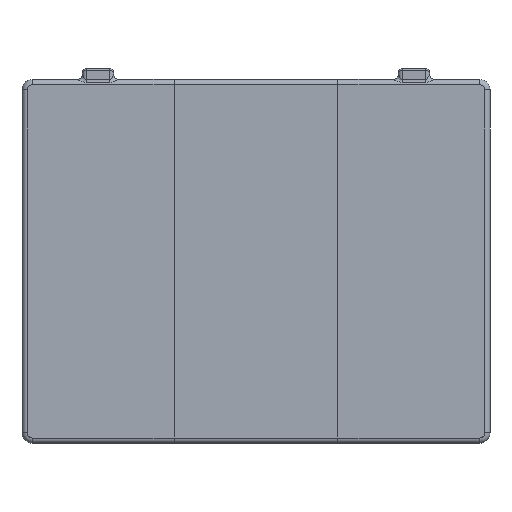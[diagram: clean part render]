
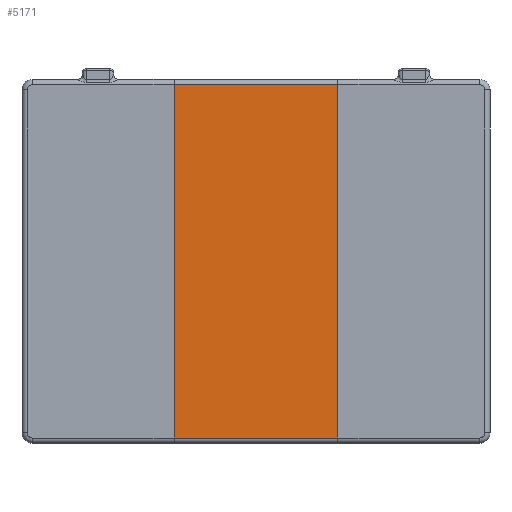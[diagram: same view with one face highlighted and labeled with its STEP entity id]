
A CAD part, front view. The second image highlights one B-rep face of the part: STEP entity #5171.
In plain terms, the highlighted planar face has unit normal (0, -1, 0).
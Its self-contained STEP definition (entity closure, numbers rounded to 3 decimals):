
#386 = CARTESIAN_POINT ( 'NONE',  ( -0.35, 0., 0.732 ) ) ;
#552 = DIRECTION ( 'NONE',  ( -1., 0., 0. ) ) ;
#865 = VERTEX_POINT ( 'NONE', #2303 ) ;
#1400 = CARTESIAN_POINT ( 'NONE',  ( -0.956, 0., -0.778 ) ) ;
#1860 = ORIENTED_EDGE ( 'NONE', *, *, #9712, .F. ) ;
#1907 = VECTOR ( 'NONE', #552, 1000. ) ;
#1954 = VERTEX_POINT ( 'NONE', #386 ) ;
#2178 = LINE ( 'NONE', #7501, #5591 ) ;
#2185 = CARTESIAN_POINT ( 'NONE',  ( 0.35, 0., -0.778 ) ) ;
#2233 = AXIS2_PLACEMENT_3D ( 'NONE', #9835, #6916, #9082 ) ;
#2303 = CARTESIAN_POINT ( 'NONE',  ( -0.35, 0., -0.778 ) ) ;
#2314 = LINE ( 'NONE', #4716, #5722 ) ;
#2963 = EDGE_CURVE ( 'NONE', #8536, #865, #7251, .T. ) ;
#2976 = DIRECTION ( 'NONE',  ( 1., 0., 0. ) ) ;
#3139 = PLANE ( 'NONE',  #2233 ) ;
#3255 = CARTESIAN_POINT ( 'NONE',  ( 0.35, 0., 0.732 ) ) ;
#3869 = LINE ( 'NONE', #5261, #8170 ) ;
#4156 = EDGE_CURVE ( 'NONE', #1954, #865, #2178, .T. ) ;
#4716 = CARTESIAN_POINT ( 'NONE',  ( 0.35, 0., 0. ) ) ;
#4834 = ORIENTED_EDGE ( 'NONE', *, *, #6948, .F. ) ;
#5096 = VERTEX_POINT ( 'NONE', #3255 ) ;
#5171 = ADVANCED_FACE ( 'NONE', ( #9229 ), #3139, .F. ) ;
#5261 = CARTESIAN_POINT ( 'NONE',  ( 0.956, 0., 0.732 ) ) ;
#5488 = ORIENTED_EDGE ( 'NONE', *, *, #4156, .T. ) ;
#5591 = VECTOR ( 'NONE', #8887, 1000. ) ;
#5722 = VECTOR ( 'NONE', #6881, 1000. ) ;
#6020 = EDGE_LOOP ( 'NONE', ( #4834, #5488, #6800, #1860 ) ) ;
#6800 = ORIENTED_EDGE ( 'NONE', *, *, #2963, .F. ) ;
#6881 = DIRECTION ( 'NONE',  ( 0., 0., -1. ) ) ;
#6916 = DIRECTION ( 'NONE',  ( 0., 1., 0. ) ) ;
#6948 = EDGE_CURVE ( 'NONE', #1954, #5096, #3869, .T. ) ;
#7251 = LINE ( 'NONE', #1400, #1907 ) ;
#7501 = CARTESIAN_POINT ( 'NONE',  ( -0.35, 0., 0. ) ) ;
#8170 = VECTOR ( 'NONE', #2976, 1000. ) ;
#8536 = VERTEX_POINT ( 'NONE', #2185 ) ;
#8887 = DIRECTION ( 'NONE',  ( 0., 0., -1. ) ) ;
#9082 = DIRECTION ( 'NONE',  ( 1., 0., 0. ) ) ;
#9229 = FACE_OUTER_BOUND ( 'NONE', #6020, .T. ) ;
#9712 = EDGE_CURVE ( 'NONE', #5096, #8536, #2314, .T. ) ;
#9835 = CARTESIAN_POINT ( 'NONE',  ( 0., 0., 0. ) ) ;
